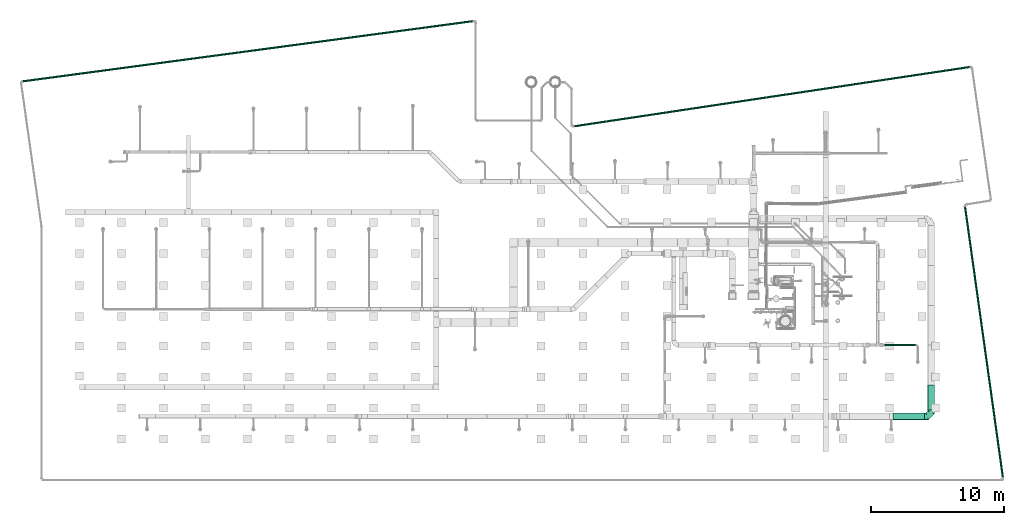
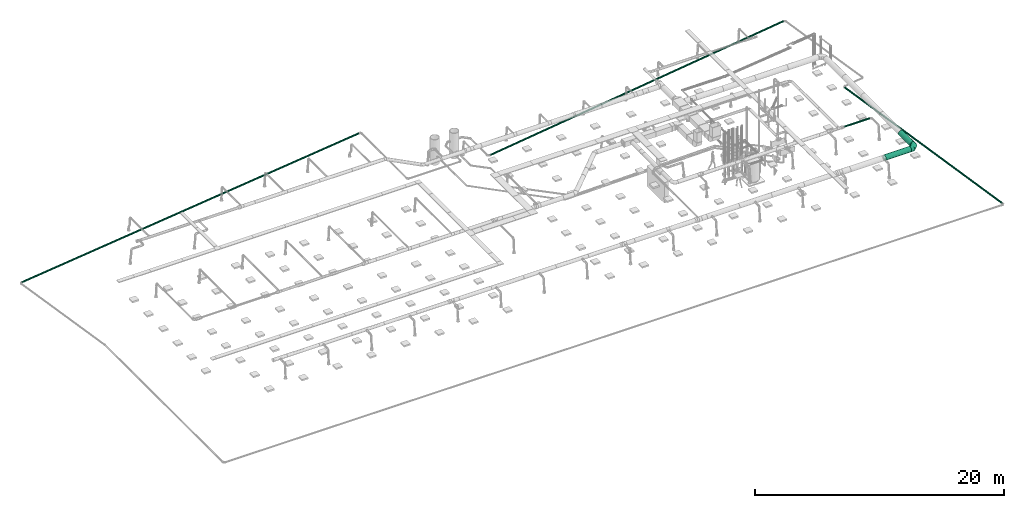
# One storey, part 227 of 374: 6 flow segments, 1 flow fitting.
"""IFC2X3 building model written with IfcOpenShell, lengths in metres."""

from ifc_helpers import new_model, si_unit, direction, origin, place, context, subcontext, project, spatial, open_shell, surface_model, source, transform, mapped, element, save


model = new_model("IFC2X3")

# Units and contexts
model_context = context("Model", 3, precision=1e-05, world=origin(), true_north=direction((-0.4480736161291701, 0.8939966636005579)))
body_context = subcontext(model_context, "Body", "Model", "MODEL_VIEW")
ifc_project = project(units=[si_unit("LENGTHUNIT", "METRE"), si_unit("AREAUNIT", "SQUARE_METRE"), si_unit("VOLUMEUNIT", "CUBIC_METRE"), si_unit("PLANEANGLEUNIT", "RADIAN"), si_unit("THERMODYNAMICTEMPERATUREUNIT", "KELVIN"), si_unit("MASSUNIT", "GRAM", prefix="KILO"), si_unit("TIMEUNIT", "SECOND")], contexts=[model_context])

# Site, building, storey
site_placement = place(None, origin())
site = spatial("IfcSite", under=ifc_project, at=site_placement, Name="Site 1", CompositionType="ELEMENT")
building_placement = place(site_placement, origin())
building = spatial("IfcBuilding", under=site, at=building_placement, Name="Undefined", CompositionType="ELEMENT")
storey_placement = place(building_placement, origin())
storey = spatial("IfcBuildingStorey", under=building, at=storey_placement, Name="Rez de chauss\x8ee", CompositionType="ELEMENT", Elevation=0.0)

# Flow segments
shared_shape_1 = source(origin(), body_context, "Body", "SurfaceModel", [
    surface_model("IfcFaceBasedSurfaceModel", [(0.0, 0.020884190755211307, 0.0), (0.0, 0.0, 0.0), (20.5436836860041, 0.0, 0.0), (20.543683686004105, 0.020884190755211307, 0.0), (0.0, -0.020172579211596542, -0.005405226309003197), (20.54368368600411, -0.020172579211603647, -0.0054052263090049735), (0.0, -0.03825881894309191, -0.015847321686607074), (20.54368368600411, -0.03825881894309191, -0.01584732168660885), (0.0, -0.05302617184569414, -0.0306146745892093), (20.5436836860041, -0.05302617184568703, -0.0306146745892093), (0.0, -0.06346826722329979, -0.04870091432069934), (20.5436836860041, -0.06346826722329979, -0.048700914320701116), (0.0, -0.06887349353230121, -0.06887349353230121), (20.5436836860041, -0.0688734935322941, -0.06887349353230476), (0.0, -0.06887349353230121, -0.08975768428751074), (20.5436836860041, -0.0688734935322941, -0.08975768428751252), (0.0, -0.06346826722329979, -0.10993026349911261), (20.5436836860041, -0.06346826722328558, -0.10993026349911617), (0.0, -0.05302617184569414, -0.12801650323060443), (20.54368368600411, -0.05302617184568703, -0.1280165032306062), (0.0, -0.038258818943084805, -0.14278385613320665), (20.54368368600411, -0.0382588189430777, -0.14278385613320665), (0.0, -0.020172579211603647, -0.15322595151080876), (20.5436836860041, -0.020172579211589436, -0.15322595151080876), (0.0, 7.105427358e-15, -0.15863117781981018), (20.543683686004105, 1.4210854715e-14, -0.15863117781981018), (0.0, 0.020884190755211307, -0.15863117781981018), (20.543683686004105, 0.020884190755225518, -0.15863117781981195), (0.0, 0.04105676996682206, -0.15322595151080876), (20.543683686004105, 0.041056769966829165, -0.15322595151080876), (0.0, 0.05914300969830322, -0.1427838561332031), (20.5436836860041, 0.05914300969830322, -0.1427838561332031), (0.0, 0.07391036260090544, -0.12801650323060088), (20.543683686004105, 0.07391036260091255, -0.12801650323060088), (0.0, 0.0843524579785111, -0.10993026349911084), (20.5436836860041, 0.0843524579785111, -0.10993026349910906), (0.0, 0.08975768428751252, -0.08975768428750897), (20.5436836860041, 0.08975768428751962, -0.08975768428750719), (0.0, 0.08975768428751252, -0.06887349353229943), (20.5436836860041, 0.08975768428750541, -0.06887349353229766), (0.0, 0.0843524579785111, -0.048700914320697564), (20.543683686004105, 0.0843524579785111, -0.04870091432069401), (0.0, 0.07391036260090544, -0.030614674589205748), (20.5436836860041, 0.07391036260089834, -0.030614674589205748), (0.0, 0.05914300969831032, -0.015847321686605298), (20.543683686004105, 0.05914300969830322, -0.015847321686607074), (0.0, 0.04105676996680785, -0.005405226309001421), (20.543683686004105, 0.041056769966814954, -0.005405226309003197)], [open_shell([[[0, 1, 2, 3]], [[1, 4, 5, 2]], [[4, 6, 7, 5]], [[6, 8, 9, 7]], [[8, 10, 11, 9]], [[10, 12, 13, 11]], [[12, 14, 15, 13]], [[14, 16, 17, 15]], [[16, 18, 19, 17]], [[18, 20, 21, 19]], [[20, 22, 23, 21]], [[22, 24, 25, 23]], [[24, 26, 27, 25]], [[26, 28, 29, 27]], [[28, 30, 31, 29]], [[30, 32, 33, 31]], [[32, 34, 35, 33]], [[34, 36, 37, 35]], [[36, 38, 39, 37]], [[38, 40, 41, 39]], [[40, 42, 43, 41]], [[42, 44, 45, 43]], [[44, 46, 47, 45]], [[46, 0, 3, 47]]])]),
])
flow_segment_1_placement = place(storey_placement, origin())
element("IfcFlowSegment", 1, at=flow_segment_1_placement, inside=storey, Name="PE-HD tuyau", ObjectType="PE-HD tuyau", context=body_context, shape_type="MappedRepresentation", body=[
    mapped(shared_shape_1, transform((70.7117749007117, -1.7115987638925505, -0.7163137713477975), x_axis=(-0.1384884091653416, 0.990364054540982, 0.0), y_axis=(-0.9818913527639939, -0.13730362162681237, 0.1305261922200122), z_axis=(0.12926844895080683, 0.018076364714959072, 0.9914448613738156))),
])
shared_shape_2 = source(origin(), body_context, "Body", "SurfaceModel", [
    surface_model("IfcFaceBasedSurfaceModel", [(30.078218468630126, 3.552713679e-15, -2.22044605e-16), (30.078218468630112, 0.02088419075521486, 4.4408921e-16), (0.0, 0.020884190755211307, 0.0), (0.0, 0.0, 0.0), (30.078218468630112, 0.04105676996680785, -0.005405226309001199), (0.0, 0.04105676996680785, -0.005405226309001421), (30.078218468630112, 0.05914300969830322, -0.01584732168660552), (0.0, 0.05914300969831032, -0.015847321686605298), (30.078218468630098, 0.07391036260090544, -0.030614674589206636), (0.0, 0.07391036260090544, -0.030614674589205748), (30.078218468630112, 0.08435245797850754, -0.048700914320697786), (0.0, 0.0843524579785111, -0.048700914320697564), (30.078218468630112, 0.08975768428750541, -0.0688734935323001), (0.0, 0.08975768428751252, -0.06887349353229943), (30.078218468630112, 0.08975768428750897, -0.08975768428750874), (0.0, 0.08975768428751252, -0.08975768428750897), (30.078218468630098, 0.08435245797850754, -0.1099302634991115), (0.0, 0.0843524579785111, -0.10993026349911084), (30.078218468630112, 0.07391036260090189, -0.1280165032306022), (0.0, 0.07391036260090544, -0.12801650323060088), (30.078218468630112, 0.059143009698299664, -0.1427838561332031), (0.0, 0.05914300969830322, -0.1427838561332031), (30.078218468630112, 0.041056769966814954, -0.1532259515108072), (0.0, 0.04105676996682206, -0.15322595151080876), (30.078218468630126, 0.020884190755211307, -0.15863117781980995), (0.0, 0.020884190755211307, -0.15863117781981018), (30.078218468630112, 0.0, -0.15863117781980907), (0.0, 7.105427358e-15, -0.15863117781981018), (30.078218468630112, -0.020172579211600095, -0.15322595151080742), (0.0, -0.020172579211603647, -0.15322595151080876), (30.078218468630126, -0.03825881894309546, -0.14278385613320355), (0.0, -0.038258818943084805, -0.14278385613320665), (30.078218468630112, -0.05302617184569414, -0.12801650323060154), (0.0, -0.05302617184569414, -0.12801650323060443), (30.078218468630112, -0.06346826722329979, -0.10993026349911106), (0.0, -0.06346826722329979, -0.10993026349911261), (30.078218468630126, -0.06887349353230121, -0.08975768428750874), (0.0, -0.06887349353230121, -0.08975768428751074), (30.078218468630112, -0.06887349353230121, -0.06887349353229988), (0.0, -0.06887349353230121, -0.06887349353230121), (30.078218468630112, -0.06346826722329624, -0.048700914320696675), (0.0, -0.06346826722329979, -0.04870091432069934), (30.078218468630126, -0.05302617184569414, -0.03061467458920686), (0.0, -0.05302617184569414, -0.0306146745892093), (30.078218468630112, -0.03825881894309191, -0.01584732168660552), (0.0, -0.03825881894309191, -0.015847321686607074), (30.078218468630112, -0.020172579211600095, -0.005405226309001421), (0.0, -0.020172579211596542, -0.005405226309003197)], [open_shell([[[0, 1, 2, 3]], [[1, 4, 5, 2]], [[4, 6, 7, 5]], [[6, 8, 9, 7]], [[8, 10, 11, 9]], [[10, 12, 13, 11]], [[12, 14, 15, 13]], [[14, 16, 17, 15]], [[16, 18, 19, 17]], [[18, 20, 21, 19]], [[20, 22, 23, 21]], [[22, 24, 25, 23]], [[24, 26, 27, 25]], [[26, 28, 29, 27]], [[28, 30, 31, 29]], [[30, 32, 33, 31]], [[32, 34, 35, 33]], [[34, 36, 37, 35]], [[36, 38, 39, 37]], [[38, 40, 41, 39]], [[40, 42, 43, 41]], [[42, 44, 45, 43]], [[44, 46, 47, 45]], [[46, 0, 3, 47]]])]),
])
flow_segment_2_placement = place(storey_placement, origin())
element("IfcFlowSegment", 2, at=flow_segment_2_placement, inside=storey, Name="PE-HD tuyau", ObjectType="PE-HD tuyau", context=body_context, shape_type="MappedRepresentation", body=[
    mapped(shared_shape_2, transform((38.4492050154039, 24.68766975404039, -0.713587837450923), x_axis=(0.988950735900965, 0.14824453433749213, 0.0), y_axis=(-0.14697628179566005, 0.9804901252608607, -0.1305261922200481), z_axis=(-0.019349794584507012, 0.12908397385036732, 0.9914448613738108))),
])
shared_shape_3 = source(origin(), body_context, "Body", "SurfaceModel", [
    surface_model("IfcFaceBasedSurfaceModel", [(34.159924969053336, 0.0, 4.4408921e-16), (34.159924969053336, 0.0208841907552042, 0.0), (0.0, 0.020884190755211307, 0.0), (0.0, 0.0, 0.0), (34.159924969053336, 0.04105676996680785, -0.005405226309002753), (0.0, 0.04105676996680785, -0.005405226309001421), (34.159924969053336, 0.059143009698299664, -0.01584732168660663), (0.0, 0.05914300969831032, -0.015847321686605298), (34.159924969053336, 0.07391036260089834, -0.030614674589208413), (0.0, 0.07391036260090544, -0.030614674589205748), (34.159924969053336, 0.08435245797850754, -0.04870091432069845), (0.0, 0.0843524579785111, -0.048700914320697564), (34.159924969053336, 0.08975768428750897, -0.0688734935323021), (0.0, 0.08975768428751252, -0.06887349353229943), (34.159924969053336, 0.08975768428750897, -0.08975768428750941), (0.0, 0.08975768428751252, -0.08975768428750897), (34.159924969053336, 0.08435245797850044, -0.10993026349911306), (0.0, 0.0843524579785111, -0.10993026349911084), (34.159924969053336, 0.07391036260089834, -0.12801650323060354), (0.0, 0.07391036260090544, -0.12801650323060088), (34.159924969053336, 0.059143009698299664, -0.14278385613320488), (0.0, 0.05914300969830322, -0.1427838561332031), (34.159924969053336, 0.041056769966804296, -0.15322595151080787), (0.0, 0.04105676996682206, -0.15322595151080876), (34.159924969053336, 0.020884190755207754, -0.1586311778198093), (0.0, 0.020884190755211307, -0.15863117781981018), (34.159924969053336, -1.0658141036e-14, -0.15863117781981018), (0.0, 7.105427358e-15, -0.15863117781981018), (34.159924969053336, -0.020172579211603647, -0.1532259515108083), (0.0, -0.020172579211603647, -0.15322595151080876), (34.159924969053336, -0.03825881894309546, -0.142783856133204), (0.0, -0.038258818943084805, -0.14278385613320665), (34.15992496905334, -0.05302617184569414, -0.12801650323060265), (0.0, -0.05302617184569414, -0.12801650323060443), (34.159924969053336, -0.06346826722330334, -0.10993026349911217), (0.0, -0.06346826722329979, -0.10993026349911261), (34.159924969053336, -0.06887349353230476, -0.08975768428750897), (0.0, -0.06887349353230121, -0.08975768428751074), (34.159924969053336, -0.06887349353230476, -0.06887349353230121), (0.0, -0.06887349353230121, -0.06887349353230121), (34.15992496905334, -0.06346826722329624, -0.048700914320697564), (0.0, -0.06346826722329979, -0.04870091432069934), (34.159924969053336, -0.05302617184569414, -0.03061467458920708), (0.0, -0.05302617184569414, -0.0306146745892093), (34.159924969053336, -0.03825881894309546, -0.015847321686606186), (0.0, -0.03825881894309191, -0.015847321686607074), (34.159924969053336, -0.020172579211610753, -0.005405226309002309), (0.0, -0.020172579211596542, -0.005405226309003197)], [open_shell([[[0, 1, 2, 3]], [[1, 4, 5, 2]], [[4, 6, 7, 5]], [[6, 8, 9, 7]], [[8, 10, 11, 9]], [[10, 12, 13, 11]], [[12, 14, 15, 13]], [[14, 16, 17, 15]], [[16, 18, 19, 17]], [[18, 20, 21, 19]], [[20, 22, 23, 21]], [[22, 24, 25, 23]], [[24, 26, 27, 25]], [[26, 28, 29, 27]], [[28, 30, 31, 29]], [[30, 32, 33, 31]], [[32, 34, 35, 33]], [[34, 36, 37, 35]], [[36, 38, 39, 37]], [[38, 40, 41, 39]], [[40, 42, 43, 41]], [[42, 44, 45, 43]], [[44, 46, 47, 45]], [[46, 0, 3, 47]]])]),
])
flow_segment_3_placement = place(storey_placement, origin())
element("IfcFlowSegment", 3, at=flow_segment_3_placement, inside=storey, Name="PE-HD tuyau", ObjectType="PE-HD tuyau", context=body_context, shape_type="MappedRepresentation", body=[
    mapped(shared_shape_3, transform((-3.0501568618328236, 28.069647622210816, -0.8735878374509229), x_axis=(0.9911796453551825, 0.13252513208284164, 0.0), y_axis=(0.13139136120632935, -0.9826999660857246, 0.13052619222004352), z_axis=(0.017298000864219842, -0.1293749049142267, -0.9914448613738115))),
])
shared_shape_4 = source(origin(), body_context, "Body", "SurfaceModel", [
    surface_model("IfcFaceBasedSurfaceModel", [(0.0, 0.020884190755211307, 0.0), (0.0, 0.0, 0.0), (2.3615225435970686, 0.0, -4.4408921e-16), (2.3615225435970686, 0.020884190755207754, -4.4408921e-16), (0.0, -0.020172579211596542, -0.005405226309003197), (2.3615225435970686, -0.020172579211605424, -0.005405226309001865), (0.0, -0.03825881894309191, -0.015847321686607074), (2.3615225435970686, -0.038258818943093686, -0.01584732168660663), (0.0, -0.05302617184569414, -0.0306146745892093), (2.3615225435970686, -0.05302617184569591, -0.03061467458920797), (0.0, -0.06346826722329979, -0.04870091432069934), (2.3615225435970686, -0.06346826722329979, -0.04870091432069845), (0.0, -0.06887349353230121, -0.06887349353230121), (2.3615225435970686, -0.06887349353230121, -0.06887349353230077), (0.0, -0.06887349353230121, -0.08975768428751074), (2.3615225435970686, -0.06887349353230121, -0.08975768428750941), (0.0, -0.06346826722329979, -0.10993026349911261), (2.3615225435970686, -0.06346826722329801, -0.10993026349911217), (0.0, -0.05302617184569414, -0.12801650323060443), (2.3615225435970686, -0.05302617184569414, -0.1280165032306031), (0.0, -0.038258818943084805, -0.14278385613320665), (2.3615225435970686, -0.038258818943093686, -0.14278385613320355), (0.0, -0.020172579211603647, -0.15322595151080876), (2.3615225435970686, -0.02017257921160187, -0.15322595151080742), (0.0, 7.105427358e-15, -0.15863117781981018), (2.3615225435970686, 0.0, -0.15863117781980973), (0.0, 0.020884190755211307, -0.15863117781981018), (2.3615225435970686, 0.02088419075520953, -0.1586311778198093), (0.0, 0.04105676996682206, -0.15322595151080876), (2.3615225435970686, 0.0410567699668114, -0.15322595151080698), (0.0, 0.05914300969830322, -0.1427838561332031), (2.3615225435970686, 0.05914300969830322, -0.14278385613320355), (0.0, 0.07391036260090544, -0.12801650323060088), (2.3615225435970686, 0.07391036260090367, -0.12801650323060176), (0.0, 0.0843524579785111, -0.10993026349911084), (2.3615225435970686, 0.08435245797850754, -0.10993026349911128), (0.0, 0.08975768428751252, -0.08975768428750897), (2.3615225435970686, 0.08975768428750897, -0.08975768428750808), (0.0, 0.08975768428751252, -0.06887349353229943), (2.3615225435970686, 0.08975768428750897, -0.06887349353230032), (0.0, 0.0843524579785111, -0.048700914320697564), (2.3615225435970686, 0.08435245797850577, -0.04870091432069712), (0.0, 0.07391036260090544, -0.030614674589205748), (2.3615225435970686, 0.07391036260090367, -0.03061467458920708), (0.0, 0.05914300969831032, -0.015847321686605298), (2.3615225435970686, 0.059143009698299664, -0.015847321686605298), (0.0, 0.04105676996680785, -0.005405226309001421), (2.3615225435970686, 0.0410567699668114, -0.005405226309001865)], [open_shell([[[0, 1, 2, 3]], [[1, 4, 5, 2]], [[4, 6, 7, 5]], [[6, 8, 9, 7]], [[8, 10, 11, 9]], [[10, 12, 13, 11]], [[12, 14, 15, 13]], [[14, 16, 17, 15]], [[16, 18, 19, 17]], [[18, 20, 21, 19]], [[20, 22, 23, 21]], [[22, 24, 25, 23]], [[24, 26, 27, 25]], [[26, 28, 29, 27]], [[28, 30, 31, 29]], [[30, 32, 33, 31]], [[32, 34, 35, 33]], [[34, 36, 37, 35]], [[36, 38, 39, 37]], [[38, 40, 41, 39]], [[40, 42, 43, 41]], [[42, 44, 45, 43]], [[44, 46, 47, 45]], [[46, 0, 3, 47]]])]),
])
flow_segment_4_placement = place(storey_placement, origin())
element("IfcFlowSegment", 4, at=flow_segment_4_placement, inside=storey, Name="Tube", ObjectType="Tube", context=body_context, shape_type="MappedRepresentation", body=[
    mapped(shared_shape_4, transform((61.76848753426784, 8.204294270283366, 3.877274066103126), x_axis=(1.0, 0.0, 0.0), y_axis=(0.0, 0.9914448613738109, 0.1305261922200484), z_axis=(0.0, -0.1305261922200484, 0.9914448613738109))),
])
shared_shape_5 = source(origin(), body_context, "Body", "SurfaceModel", [
    surface_model("IfcFaceBasedSurfaceModel", [(1.8629682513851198, 0.0, -8.8817842e-16), (1.8629682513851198, 0.0652630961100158, -1.776356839e-15), (0.0, 0.0652630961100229, -3.552713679e-15), (0.0, 0.0, 0.0), (1.8629682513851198, 0.12830240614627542, -0.016891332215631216), (0.0, 0.12830240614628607, -0.016891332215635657), (1.8629682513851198, 0.18482190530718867, -0.04952288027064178), (0.0, 0.18482190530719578, -0.049522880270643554), (1.8629682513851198, 0.23096988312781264, -0.09567085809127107), (0.0, 0.2309698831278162, -0.09567085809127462), (1.862968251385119, 0.26360143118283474, -0.15219035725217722), (0.0, 0.2636014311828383, -0.15219035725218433), (1.8629682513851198, 0.2804927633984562, -0.21522966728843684), (0.0, 0.28049276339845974, -0.2152296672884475), (1.862968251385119, 0.2804927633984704, -0.2804927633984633), (0.0, 0.2804927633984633, -0.2804927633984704), (1.8629682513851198, 0.26360143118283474, -0.3435320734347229), (0.0, 0.26360143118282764, -0.34353207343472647), (1.8629682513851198, 0.23096988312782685, -0.40005157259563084), (0.0, 0.2309698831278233, -0.4000515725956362), (1.8629682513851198, 0.18482190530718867, -0.44619955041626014), (0.0, 0.18482190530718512, -0.4461995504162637), (1.8629682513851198, 0.12830240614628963, -0.47883109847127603), (0.0, 0.12830240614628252, -0.47883109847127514), (1.8629682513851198, 0.06526309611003, -0.49572243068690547), (0.0, 0.0652630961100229, -0.4957224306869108), (1.862968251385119, 0.0, -0.49572243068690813), (0.0, -7.105427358e-15, -0.49572243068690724), (1.8629682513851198, -0.06303931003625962, -0.47883109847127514), (0.0, -0.06303931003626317, -0.47883109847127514), (1.8629682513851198, -0.11955880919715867, -0.44619955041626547), (0.0, -0.11955880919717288, -0.44619955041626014), (1.862968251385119, -0.16570678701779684, -0.40005157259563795), (0.0, -0.1657067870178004, -0.4000515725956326), (1.8629682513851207, -0.19833833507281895, -0.34353207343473), (0.0, -0.1983383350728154, -0.3435320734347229), (1.8629682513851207, -0.2152296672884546, -0.2804927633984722), (0.0, -0.2152296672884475, -0.28049276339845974), (1.8629682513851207, -0.2152296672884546, -0.21522966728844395), (0.0, -0.2152296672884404, -0.2152296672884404), (1.862968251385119, -0.19833833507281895, -0.1521903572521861), (0.0, -0.1983383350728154, -0.15219035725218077), (1.8629682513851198, -0.16570678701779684, -0.0956708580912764), (0.0, -0.1657067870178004, -0.09567085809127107), (1.8629682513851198, -0.11955880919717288, -0.04952288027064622), (0.0, -0.11955880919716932, -0.049522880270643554), (1.862968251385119, -0.06303931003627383, -0.01689133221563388), (0.0, -0.06303931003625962, -0.01689133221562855)], [open_shell([[[0, 1, 2, 3]], [[1, 4, 5, 2]], [[4, 6, 7, 5]], [[6, 8, 9, 7]], [[8, 10, 11, 9]], [[10, 12, 13, 11]], [[12, 14, 15, 13]], [[14, 16, 17, 15]], [[16, 18, 19, 17]], [[18, 20, 21, 19]], [[20, 22, 23, 21]], [[22, 24, 25, 23]], [[24, 26, 27, 25]], [[26, 28, 29, 27]], [[28, 30, 31, 29]], [[30, 32, 33, 31]], [[32, 34, 35, 33]], [[34, 36, 37, 35]], [[36, 38, 39, 37]], [[38, 40, 41, 39]], [[40, 42, 43, 41]], [[42, 44, 45, 43]], [[44, 46, 47, 45]], [[46, 0, 3, 47]]])]),
])
flow_segment_5_placement = place(storey_placement, origin())
element("IfcFlowSegment", 5, at=flow_segment_5_placement, inside=storey, Name="Tube", ObjectType="Tube", context=body_context, shape_type="MappedRepresentation", body=[
    mapped(shared_shape_5, transform((65.29000758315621, 3.3512977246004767, 4.050000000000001), x_axis=(0.0, 1.0, 0.0), y_axis=(-0.9914448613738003, 0.0, -0.13052619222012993), z_axis=(-0.13052619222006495, 0.0, 0.9914448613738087))),
])

# Flow fitting
shared_shape_6 = source(origin(), body_context, "Body", "SurfaceModel", [
    surface_model("IfcFaceBasedSurfaceModel", [(0.20710678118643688, 0.0, -1.776356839e-15), (0.20710678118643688, 0.0652630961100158, -8.8817842e-16), (0.026801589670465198, 0.0652630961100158, -8.8817842e-16), (0.0, 0.0, 0.0), (0.20710678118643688, 0.12830240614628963, -0.016891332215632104), (0.05177669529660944, 0.12830240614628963, -0.01689133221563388), (0.20710678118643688, 0.18482190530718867, -0.04952288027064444), (0.07322330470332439, 0.18482190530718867, -0.04952288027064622), (0.20710678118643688, 0.23096988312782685, -0.09567085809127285), (0.08967986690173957, 0.23096988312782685, -0.09567085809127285), (0.20710678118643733, 0.26360143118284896, -0.1521903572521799), (0.10002489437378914, 0.26360143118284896, -0.1521903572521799), (0.20710678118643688, 0.2804927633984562, -0.2152296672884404), (0.10355339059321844, 0.2804927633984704, -0.2152296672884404), (0.20710678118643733, 0.2804927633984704, -0.2804927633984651), (0.10002489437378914, 0.2804927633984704, -0.2804927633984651), (0.20710678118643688, 0.26360143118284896, -0.3435320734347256), (0.08967986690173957, 0.26360143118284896, -0.3435320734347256), (0.20710678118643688, 0.23096988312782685, -0.4000515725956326), (0.07322330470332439, 0.23096988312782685, -0.4000515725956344), (0.20710678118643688, 0.18482190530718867, -0.4461995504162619), (0.05177669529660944, 0.18482190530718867, -0.4461995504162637), (0.20710678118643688, 0.12830240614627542, -0.47883109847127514), (0.026801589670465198, 0.12830240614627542, -0.47883109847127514), (0.20710678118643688, 0.06526309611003, -0.49572243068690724), (0.0, 0.0652630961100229, -0.4957224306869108), (0.20710678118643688, 0.0, -0.49572243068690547), (-0.026801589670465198, 0.0, -0.49572243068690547), (0.20710678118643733, -0.06303931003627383, -0.47883109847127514), (-0.05177669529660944, -0.06303931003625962, -0.47883109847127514), (0.20710678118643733, -0.11955880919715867, -0.44619955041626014), (-0.07322330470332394, -0.11955880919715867, -0.4461995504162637), (0.20710678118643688, -0.16570678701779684, -0.4000515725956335), (-0.08967986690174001, -0.16570678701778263, -0.4000515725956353), (0.20710678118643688, -0.19833833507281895, -0.34353207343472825), (-0.10002489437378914, -0.19833833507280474, -0.34353207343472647), (0.20710678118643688, -0.2152296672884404, -0.2804927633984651), (-0.10355339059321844, -0.2152296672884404, -0.2804927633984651), (0.20710678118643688, -0.2152296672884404, -0.21522966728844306), (-0.10002489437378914, -0.21522966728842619, -0.21522966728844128), (0.20710678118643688, -0.19833833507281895, -0.15219035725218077), (-0.08967986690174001, -0.19833833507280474, -0.15219035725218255), (0.20710678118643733, -0.16570678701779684, -0.09567085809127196), (-0.07322330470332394, -0.16570678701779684, -0.09567085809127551), (0.20710678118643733, -0.11955880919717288, -0.04952288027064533), (-0.05177669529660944, -0.11955880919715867, -0.04952288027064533), (0.20710678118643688, -0.06303931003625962, -0.016891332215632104), (-0.026801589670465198, -0.06303931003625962, -0.016891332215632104), (-0.22818845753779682, 0.3180716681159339, 0.033282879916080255), (-0.2928932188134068, 0.29038747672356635, 0.038230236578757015), (-0.16789321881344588, 0.3460930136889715, 0.011781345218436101), (-0.11611652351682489, 0.37254190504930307, -0.024809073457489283), (-0.07638686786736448, 0.39561589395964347, -0.07399479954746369), (-0.051411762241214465, 0.4137425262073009, -0.13242390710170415), (-0.04289321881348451, 0.42568650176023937, -0.196114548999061), (-0.051411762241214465, 0.43063385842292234, -0.26072631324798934), (-0.07638686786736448, 0.4282474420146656, -0.3218560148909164), (-0.11611652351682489, 0.41868988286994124, -0.37533776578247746), (-0.16789321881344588, 0.40261251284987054, -0.4175268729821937), (-0.22818845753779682, 0.3811109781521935, -0.445548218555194), (-0.2928932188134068, 0.35565057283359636, -0.45749219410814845), (-0.3575979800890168, 0.3279663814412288, -0.45254483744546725), (-0.4178932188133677, 0.2999450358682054, -0.43104330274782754), (-0.46966991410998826, 0.27349614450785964, -0.3944528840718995), (-0.5093995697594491, 0.25042215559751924, -0.34526715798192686), (-0.5343746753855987, 0.2322955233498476, -0.2868380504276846), (-0.5428932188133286, 0.22035154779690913, -0.22314740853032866), (-0.5343746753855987, 0.21540419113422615, -0.15853564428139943), (-0.5093995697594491, 0.21779060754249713, -0.09740594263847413), (-0.46966991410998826, 0.22734816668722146, -0.04392419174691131), (-0.4178932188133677, 0.24342553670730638, -0.0017350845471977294), (-0.3575979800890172, 0.2649270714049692, 0.026286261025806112), (-0.22818845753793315, 0.49683432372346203, 0.05681743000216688), (-0.2928932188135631, 0.4957224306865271, 0.06526309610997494), (-0.16789321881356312, 0.5000942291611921, 0.032055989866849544), (-0.11611652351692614, 0.5052799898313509, -0.007333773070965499), (-0.07638686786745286, 0.5120382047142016, -0.05866751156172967), (-0.05141176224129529, 0.5199083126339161, -0.11844691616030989), (-0.04289321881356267, 0.5283539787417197, -0.18259811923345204), (-0.05141176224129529, 0.5367996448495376, -0.24674932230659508), (-0.07638686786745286, 0.5446697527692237, -0.3065287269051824), (-0.11611652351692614, 0.5514279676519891, -0.3578624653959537), (-0.16789321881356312, 0.5566137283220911, -0.39725222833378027), (-0.22818845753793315, 0.5598736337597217, -0.4220136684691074), (-0.2928932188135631, 0.5609855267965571, -0.43045933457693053), (-0.3575979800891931, 0.5598736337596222, -0.4220136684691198), (-0.4178932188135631, 0.5566137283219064, -0.39725222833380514), (-0.4696699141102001, 0.5514279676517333, -0.3578624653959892), (-0.5093995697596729, 0.5446697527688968, -0.30652872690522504), (-0.5343746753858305, 0.5367996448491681, -0.24674932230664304), (-0.5428932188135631, 0.5283539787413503, -0.18259811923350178), (-0.5343746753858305, 0.5199083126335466, -0.11844691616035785), (-0.5093995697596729, 0.5120382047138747, -0.0586675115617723), (-0.4696699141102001, 0.5052799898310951, -0.007333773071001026), (-0.41789321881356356, 0.5000942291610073, 0.032055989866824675), (-0.3575979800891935, 0.49683432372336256, 0.05681743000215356)], [open_shell([[[0, 1, 2, 3]], [[1, 4, 5, 2]], [[4, 6, 7, 5]], [[6, 8, 9, 7]], [[8, 10, 11, 9]], [[10, 12, 13, 11]], [[12, 14, 15, 13]], [[14, 16, 17, 15]], [[16, 18, 19, 17]], [[18, 20, 21, 19]], [[20, 22, 23, 21]], [[22, 24, 25, 23]], [[24, 26, 27, 25]], [[26, 28, 29, 27]], [[28, 30, 31, 29]], [[30, 32, 33, 31]], [[32, 34, 35, 33]], [[34, 36, 37, 35]], [[36, 38, 39, 37]], [[38, 40, 41, 39]], [[40, 42, 43, 41]], [[42, 44, 45, 43]], [[44, 46, 47, 45]], [[46, 0, 3, 47]], [[3, 2, 48, 49]], [[2, 5, 50, 48]], [[5, 7, 51, 50]], [[7, 9, 52, 51]], [[9, 11, 53, 52]], [[11, 13, 54, 53]], [[13, 15, 55, 54]], [[15, 17, 56, 55]], [[17, 19, 57, 56]], [[19, 21, 58, 57]], [[21, 23, 59, 58]], [[23, 25, 60, 59]], [[25, 27, 61, 60]], [[27, 29, 62, 61]], [[29, 31, 63, 62]], [[31, 33, 64, 63]], [[33, 35, 65, 64]], [[35, 37, 66, 65]], [[37, 39, 67, 66]], [[39, 41, 68, 67]], [[41, 43, 69, 68]], [[43, 45, 70, 69]], [[45, 47, 71, 70]], [[47, 3, 49, 71]], [[49, 48, 72, 73]], [[48, 50, 74, 72]], [[50, 51, 75, 74]], [[51, 52, 76, 75]], [[52, 53, 77, 76]], [[53, 54, 78, 77]], [[54, 55, 79, 78]], [[55, 56, 80, 79]], [[56, 57, 81, 80]], [[57, 58, 82, 81]], [[58, 59, 83, 82]], [[59, 60, 84, 83]], [[60, 61, 85, 84]], [[61, 62, 86, 85]], [[62, 63, 87, 86]], [[63, 64, 88, 87]], [[64, 65, 89, 88]], [[65, 66, 90, 89]], [[66, 67, 91, 90]], [[67, 68, 92, 91]], [[68, 69, 93, 92]], [[69, 70, 94, 93]], [[70, 71, 95, 94]], [[71, 49, 73, 95]]])]),
])
flow_fitting_placement = place(storey_placement, origin())
element("IfcFlowFitting", 6, at=flow_fitting_placement, inside=storey, Name="Coude à segment 3 parties", ObjectType="Coude à segment 3 parties", context=body_context, shape_type="MappedRepresentation", body=[
    mapped(shared_shape_6, transform((65.29000758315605, 3.1441909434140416, 4.050000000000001), x_axis=(0.0, 1.0, 0.0), y_axis=(-0.9914448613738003, 0.0, -0.13052619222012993), z_axis=(-0.13052619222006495, 0.0, 0.9914448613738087))),
])

# Flow segment
shared_shape_7 = source(origin(), body_context, "Body", "SurfaceModel", [
    surface_model("IfcFaceBasedSurfaceModel", [(0.0, 0.0652630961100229, -3.552713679e-15), (0.0, 0.0, 0.0), (2.3700060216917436, 0.0, 0.0), (2.3700060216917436, 0.06526309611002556, 0.0), (0.0, -0.06303931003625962, -0.01689133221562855), (2.3700060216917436, -0.06303931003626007, -0.016891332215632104), (0.0, -0.11955880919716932, -0.049522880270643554), (2.3700060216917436, -0.1195588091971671, -0.04952288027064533), (0.0, -0.1657067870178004, -0.09567085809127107), (2.3700060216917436, -0.16570678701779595, -0.09567085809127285), (0.0, -0.1983383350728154, -0.15219035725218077), (2.3700060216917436, -0.19833833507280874, -0.15219035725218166), (0.0, -0.2152296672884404, -0.2152296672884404), (2.3700060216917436, -0.21522966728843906, -0.2152296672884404), (0.0, -0.2152296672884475, -0.28049276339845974), (2.3700060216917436, -0.21522966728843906, -0.28049276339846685), (0.0, -0.1983383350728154, -0.3435320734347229), (2.3700060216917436, -0.19833833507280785, -0.3435320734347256), (0.0, -0.1657067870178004, -0.4000515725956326), (2.3700060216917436, -0.16570678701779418, -0.40005157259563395), (0.0, -0.11955880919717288, -0.44619955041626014), (2.3700060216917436, -0.11955880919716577, -0.44619955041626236), (0.0, -0.06303931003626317, -0.47883109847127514), (2.3700060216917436, -0.0630393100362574, -0.47883109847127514), (0.0, -7.105427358e-15, -0.49572243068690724), (2.3700060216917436, 1.776356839e-15, -0.49572243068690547), (0.0, 0.0652630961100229, -0.4957224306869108), (2.3700060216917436, 0.06526309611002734, -0.49572243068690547), (0.0, 0.12830240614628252, -0.47883109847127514), (2.3700060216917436, 0.12830240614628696, -0.47883109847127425), (0.0, 0.18482190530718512, -0.4461995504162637), (2.3700060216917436, 0.18482190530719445, -0.446199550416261), (0.0, 0.2309698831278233, -0.4000515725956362), (2.3700060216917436, 0.2309698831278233, -0.40005157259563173), (0.0, 0.26360143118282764, -0.34353207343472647), (2.3700060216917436, 0.2636014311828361, -0.3435320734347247), (0.0, 0.2804927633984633, -0.2804927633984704), (2.3700060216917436, 0.2804927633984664, -0.2804927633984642), (0.0, 0.28049276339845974, -0.2152296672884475), (2.3700060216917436, 0.2804927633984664, -0.21522966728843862), (0.0, 0.2636014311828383, -0.15219035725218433), (2.3700060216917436, 0.2636014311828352, -0.152190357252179), (0.0, 0.2309698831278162, -0.09567085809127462), (2.3700060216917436, 0.23096988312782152, -0.09567085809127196), (0.0, 0.18482190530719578, -0.049522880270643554), (2.3700060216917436, 0.18482190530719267, -0.049522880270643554), (0.0, 0.12830240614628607, -0.016891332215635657), (2.3700060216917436, 0.1283024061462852, -0.016891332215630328)], [open_shell([[[0, 1, 2, 3]], [[1, 4, 5, 2]], [[4, 6, 7, 5]], [[6, 8, 9, 7]], [[8, 10, 11, 9]], [[10, 12, 13, 11]], [[12, 14, 15, 13]], [[14, 16, 17, 15]], [[16, 18, 19, 17]], [[18, 20, 21, 19]], [[20, 22, 23, 21]], [[22, 24, 25, 23]], [[24, 26, 27, 25]], [[26, 28, 29, 27]], [[28, 30, 31, 29]], [[30, 32, 33, 31]], [[32, 34, 35, 33]], [[34, 36, 37, 35]], [[36, 38, 39, 37]], [[38, 40, 41, 39]], [[40, 42, 43, 41]], [[42, 44, 45, 43]], [[44, 46, 47, 45]], [[46, 0, 3, 47]]])]),
])
flow_segment_6_placement = place(storey_placement, origin())
element("IfcFlowSegment", 7, at=flow_segment_6_placement, inside=storey, Name="Tube", ObjectType="Tube", context=body_context, shape_type="MappedRepresentation", body=[
    mapped(shared_shape_7, transform((64.79000758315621, 2.916002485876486, 4.041481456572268), x_axis=(-1.0, 0.0, 0.0), y_axis=(7.266545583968e-12, -0.9914448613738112, 0.13052619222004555), z_axis=(0.0, 0.13052619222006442, 0.9914448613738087))),
])

save(model, "model.ifc")
